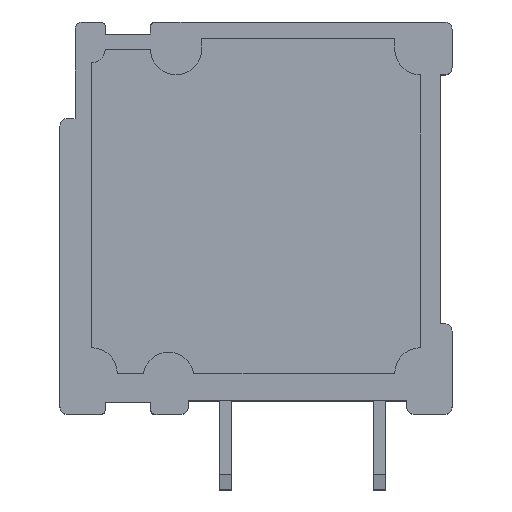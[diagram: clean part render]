
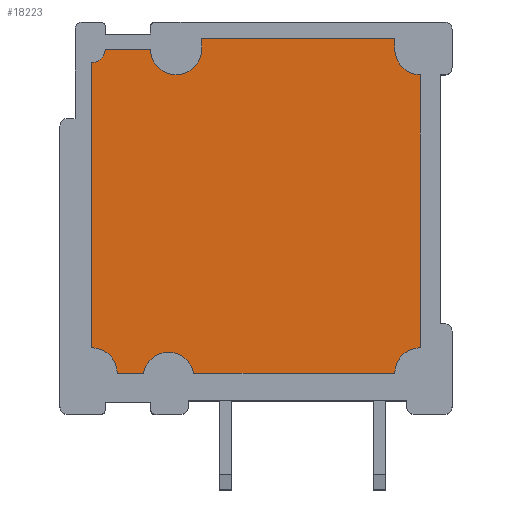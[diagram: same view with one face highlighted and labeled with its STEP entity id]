
A CAD part, top view. The second image highlights one B-rep face of the part: STEP entity #18223.
In plain terms, the highlighted planar face has unit normal (0, 0, 1).
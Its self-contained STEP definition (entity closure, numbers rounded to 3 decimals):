
#2062=DIRECTION('',(0.,1.,0.));
#2063=VECTOR('',#2062,18.9);
#2064=CARTESIAN_POINT('',(2.1,4.4,-0.3));
#2065=LINE('',#2064,#2063);
#2070=CARTESIAN_POINT('',(7.2,2.4,-0.3));
#2071=DIRECTION('',(0.,0.,-1.));
#2072=DIRECTION('',(-0.984,0.176,0.));
#2073=AXIS2_PLACEMENT_3D('',#2070,#2071,#2072);
#2075=DIRECTION('',(1.,0.,0.));
#2076=VECTOR('',#2075,1.727);
#2077=CARTESIAN_POINT('',(3.8,2.7,-0.3));
#2078=LINE('',#2077,#2076);
#2079=CARTESIAN_POINT('',(2.1,2.7,-0.3));
#2080=DIRECTION('',(0.,0.,-1.));
#2081=DIRECTION('',(0.,1.,0.));
#2082=AXIS2_PLACEMENT_3D('',#2079,#2080,#2081);
#2084=CARTESIAN_POINT('',(2.1,24.2,-0.3));
#2085=DIRECTION('',(0.,0.,-1.));
#2086=DIRECTION('',(1.,0.,0.));
#2087=AXIS2_PLACEMENT_3D('',#2084,#2085,#2086);
#2089=CARTESIAN_POINT('',(7.7,24.2,-0.3));
#2090=DIRECTION('',(0.,0.,-1.));
#2091=DIRECTION('',(1.,0.,0.));
#2092=AXIS2_PLACEMENT_3D('',#2089,#2090,#2091);
#2094=CARTESIAN_POINT('',(23.9,24.2,-0.3));
#2095=DIRECTION('',(0.,0.,-1.));
#2096=DIRECTION('',(0.,-1.,0.));
#2097=AXIS2_PLACEMENT_3D('',#2094,#2095,#2096);
#2099=CARTESIAN_POINT('',(23.9,2.7,-0.3));
#2100=DIRECTION('',(0.,0.,-1.));
#2101=DIRECTION('',(-1.,0.,0.));
#2102=AXIS2_PLACEMENT_3D('',#2099,#2100,#2101);
#2108=DIRECTION('',(-1.,0.,0.));
#2109=VECTOR('',#2108,13.327);
#2110=CARTESIAN_POINT('',(22.2,2.7,-0.3));
#2111=LINE('',#2110,#2109);
#2124=DIRECTION('',(0.,-1.,0.));
#2125=VECTOR('',#2124,18.1);
#2126=CARTESIAN_POINT('',(23.9,22.5,-0.3));
#2127=LINE('',#2126,#2125);
#2140=DIRECTION('',(0.,-1.,0.));
#2141=VECTOR('',#2140,0.7);
#2142=CARTESIAN_POINT('',(22.2,24.9,-0.3));
#2143=LINE('',#2142,#2141);
#2152=DIRECTION('',(1.,0.,0.));
#2153=VECTOR('',#2152,12.8);
#2154=CARTESIAN_POINT('',(9.4,24.9,-0.3));
#2155=LINE('',#2154,#2153);
#2164=DIRECTION('',(0.,1.,0.));
#2165=VECTOR('',#2164,0.7);
#2166=CARTESIAN_POINT('',(9.4,24.2,-0.3));
#2167=LINE('',#2166,#2165);
#2180=DIRECTION('',(1.,0.,0.));
#2181=VECTOR('',#2180,3.);
#2182=CARTESIAN_POINT('',(3.,24.2,-0.3));
#2183=LINE('',#2182,#2181);
#12037=CARTESIAN_POINT('',(3.8,2.7,-0.3));
#12038=VERTEX_POINT('',#12037);
#12039=CARTESIAN_POINT('',(5.527,2.7,-0.3));
#12040=VERTEX_POINT('',#12039);
#12041=CARTESIAN_POINT('',(2.1,4.4,-0.3));
#12042=VERTEX_POINT('',#12041);
#12043=CARTESIAN_POINT('',(8.873,2.7,-0.3));
#12044=VERTEX_POINT('',#12043);
#12045=CARTESIAN_POINT('',(2.1,23.3,-0.3));
#12046=VERTEX_POINT('',#12045);
#12047=CARTESIAN_POINT('',(3.,24.2,-0.3));
#12048=VERTEX_POINT('',#12047);
#12049=CARTESIAN_POINT('',(6.,24.2,-0.3));
#12050=VERTEX_POINT('',#12049);
#12051=CARTESIAN_POINT('',(9.4,24.2,-0.3));
#12052=VERTEX_POINT('',#12051);
#12053=CARTESIAN_POINT('',(9.4,24.9,-0.3));
#12054=VERTEX_POINT('',#12053);
#12055=CARTESIAN_POINT('',(22.2,24.9,-0.3));
#12056=VERTEX_POINT('',#12055);
#12057=CARTESIAN_POINT('',(22.2,24.2,-0.3));
#12058=VERTEX_POINT('',#12057);
#12059=CARTESIAN_POINT('',(23.9,22.5,-0.3));
#12060=VERTEX_POINT('',#12059);
#12061=CARTESIAN_POINT('',(23.9,4.4,-0.3));
#12062=VERTEX_POINT('',#12061);
#12063=CARTESIAN_POINT('',(22.2,2.7,-0.3));
#12064=VERTEX_POINT('',#12063);
#18190=CARTESIAN_POINT('',(26.,26.,-0.3));
#18191=DIRECTION('',(0.,0.,1.));
#18192=DIRECTION('',(0.,1.,0.));
#18193=AXIS2_PLACEMENT_3D('',#18190,#18191,#18192);
#18194=PLANE('',#18193);
#18196=ORIENTED_EDGE('',*,*,#18195,.T.);
#18198=ORIENTED_EDGE('',*,*,#18197,.F.);
#18200=ORIENTED_EDGE('',*,*,#18199,.F.);
#18201=ORIENTED_EDGE('',*,*,#18168,.F.);
#18202=ORIENTED_EDGE('',*,*,#18181,.T.);
#18204=ORIENTED_EDGE('',*,*,#18203,.F.);
#18206=ORIENTED_EDGE('',*,*,#18205,.T.);
#18208=ORIENTED_EDGE('',*,*,#18207,.F.);
#18210=ORIENTED_EDGE('',*,*,#18209,.T.);
#18212=ORIENTED_EDGE('',*,*,#18211,.T.);
#18214=ORIENTED_EDGE('',*,*,#18213,.T.);
#18216=ORIENTED_EDGE('',*,*,#18215,.F.);
#18218=ORIENTED_EDGE('',*,*,#18217,.T.);
#18220=ORIENTED_EDGE('',*,*,#18219,.F.);
#18221=EDGE_LOOP('',(#18196,#18198,#18200,#18201,#18202,#18204,#18206,#18208,
#18210,#18212,#18214,#18216,#18218,#18220));
#18222=FACE_OUTER_BOUND('',#18221,.F.);
#18223=ADVANCED_FACE('',(#18222),#18194,.T.);
#2074=CIRCLE('',#2073,1.7);
#2083=CIRCLE('',#2082,1.7);
#2088=CIRCLE('',#2087,0.9);
#2093=CIRCLE('',#2092,1.7);
#2098=CIRCLE('',#2097,1.7);
#2103=CIRCLE('',#2102,1.7);
#18168=EDGE_CURVE('',#12042,#12038,#2083,.T.);
#18181=EDGE_CURVE('',#12042,#12046,#2065,.T.);
#18195=EDGE_CURVE('',#12064,#12044,#2111,.T.);
#18197=EDGE_CURVE('',#12040,#12044,#2074,.T.);
#18199=EDGE_CURVE('',#12038,#12040,#2078,.T.);
#18203=EDGE_CURVE('',#12048,#12046,#2088,.T.);
#18205=EDGE_CURVE('',#12048,#12050,#2183,.T.);
#18207=EDGE_CURVE('',#12052,#12050,#2093,.T.);
#18209=EDGE_CURVE('',#12052,#12054,#2167,.T.);
#18211=EDGE_CURVE('',#12054,#12056,#2155,.T.);
#18213=EDGE_CURVE('',#12056,#12058,#2143,.T.);
#18215=EDGE_CURVE('',#12060,#12058,#2098,.T.);
#18217=EDGE_CURVE('',#12060,#12062,#2127,.T.);
#18219=EDGE_CURVE('',#12064,#12062,#2103,.T.);
